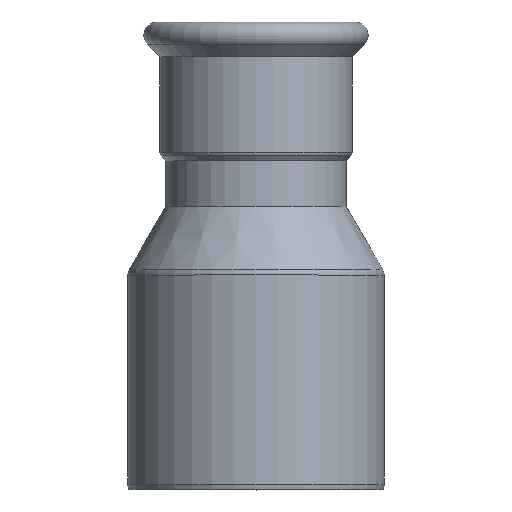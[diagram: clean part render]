
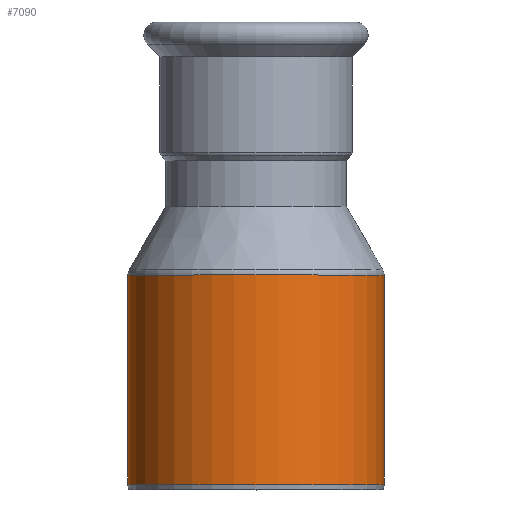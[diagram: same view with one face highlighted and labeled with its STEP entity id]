
A CAD part, top view. The second image highlights one B-rep face of the part: STEP entity #7090.
In plain terms, the highlighted cylindrical face has radius 54 mm (diameter 108 mm), a partial arc.
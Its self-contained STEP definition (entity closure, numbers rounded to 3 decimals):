
#530=CARTESIAN_POINT('',(-256.976,-16.977,0.));
#540=VERTEX_POINT('',#530);
#570=CARTESIAN_POINT('',(-202.976,-16.977,0.));
#580=DIRECTION('',(0.,-1.,0.));
#590=DIRECTION('',(-1.,0.,0.));
#600=AXIS2_PLACEMENT_3D('',#570,#580,#590);
#610=CIRCLE('',#600,54.);
#620=CARTESIAN_POINT('',(-148.976,-16.977,0.));
#630=VERTEX_POINT('',#620);
#1870=CARTESIAN_POINT('',(-202.976,33.421,0.));
#1880=DIRECTION('',(0.,-1.,0.));
#1890=DIRECTION('',(1.,0.,0.));
#1900=AXIS2_PLACEMENT_3D('',#1870,#1880,#1890);
#1910=CYLINDRICAL_SURFACE('',#1900,54.);
#1920=CARTESIAN_POINT('',(-256.976,33.421,
0.));
#1930=DIRECTION('',(0.,-1.,0.));
#1940=VECTOR('',#1930,1.);
#1950=LINE('',#1920,#1940);
#1960=CARTESIAN_POINT('',(-256.976,-105.379,
0.));
#1970=VERTEX_POINT('',#1960);
#1980=EDGE_CURVE('',#540,#1970,#1950,.T.);
#2000=CARTESIAN_POINT('',(-202.976,-105.379,0.));
#2010=DIRECTION('',(0.,-1.,0.));
#2020=DIRECTION('',(-1.,0.,0.));
#2030=AXIS2_PLACEMENT_3D('',#2000,#2010,#2020);
#2040=CIRCLE('',#2030,54.);
#2050=CARTESIAN_POINT('',(-148.976,-105.379,0.));
#2060=VERTEX_POINT('',#2050);
#2090=CARTESIAN_POINT('',(-148.976,33.421,0.));
#2100=DIRECTION('',(0.,-1.,0.));
#2110=VECTOR('',#2100,1.);
#2120=LINE('',#2090,#2110);
#2130=EDGE_CURVE('',#630,#2060,#2120,.T.);
#7010=EDGE_CURVE('',#630,#540,#610,.T.);
#7020=ORIENTED_EDGE('',*,*,#7010,.T.);
#7030=ORIENTED_EDGE('',*,*,#2130,.F.);
#7040=EDGE_CURVE('',#2060,#1970,#2040,.T.);
#7050=ORIENTED_EDGE('',*,*,#7040,.F.);
#7060=ORIENTED_EDGE('',*,*,#1980,.T.);
#7070=EDGE_LOOP('',(#7060,#7050,#7030,#7020));
#7080=FACE_OUTER_BOUND('',#7070,.T.);
#7090=ADVANCED_FACE('',(#7080),#1910,.T.);
